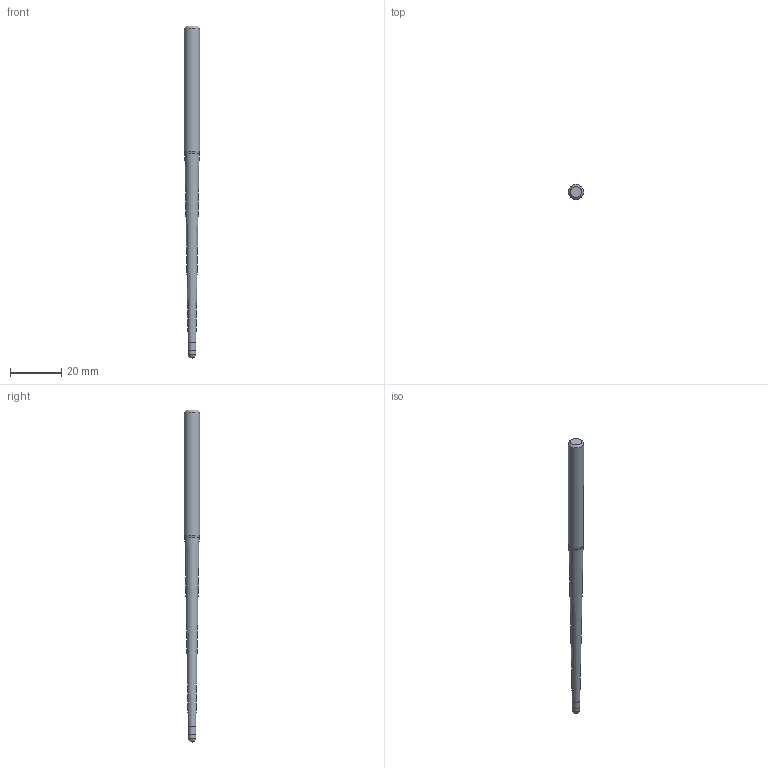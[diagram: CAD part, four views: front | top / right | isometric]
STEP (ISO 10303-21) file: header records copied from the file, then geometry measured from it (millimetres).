
FILE_DESCRIPTION((''),'2;1');
FILE_NAME('C:\Users\nsx150\AppData\Local\Temp\Mastercam 2021\SNAKH10GOD\TEMP.step','2021-10-21T13:33:25',(''),(''),'STEP Write','Mastercam 2021 ... CNC Software, Inc.','');
FILE_SCHEMA(('AUTOMOTIVE_DESIGN'));
Length unit declared in the file: millimetre
Products named in the file (1): None
Bounding box: 6 x 6 x 130 mm (x, y, z)
Volume: 2542.3 mm3; surface area: 2026.4 mm2
Topology: 2 solids, 2 shells, 10 faces, 16 edges, 9 vertices
Faces by surface type: plane 3, cylinder 3, cone 3, sphere 1
Full cylindrical faces by diameter (mm): 2.98 x1, 3 x1, 6 x1
Entity records: 232 total; most frequent: DIRECTION 40, CARTESIAN_POINT 28, AXIS2_PLACEMENT_3D 20, ORIENTED_EDGE 16, EDGE_LOOP 16, STYLED_ITEM 13, ADVANCED_FACE 10, FACE_BOUND 9
